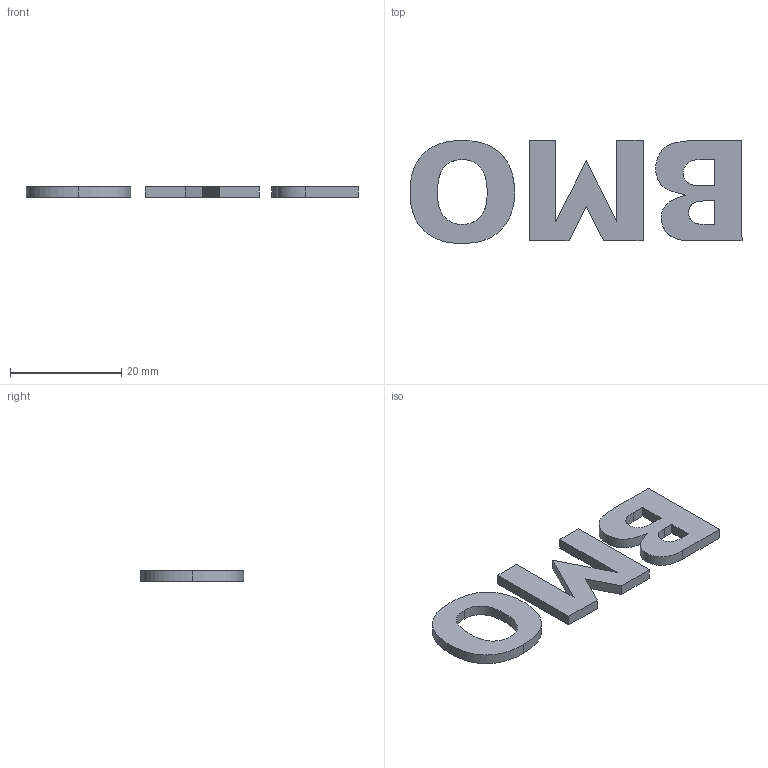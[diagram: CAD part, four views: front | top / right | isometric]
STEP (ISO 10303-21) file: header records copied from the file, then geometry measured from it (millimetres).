
FILE_DESCRIPTION (( 'STEP AP203' ), '1' );
FILE_NAME ('BMO Logo.step', '2015-03-14T23:35:42', ( '' ), ( '' ), 'SwSTEP 2.0', 'SolidWorks 2013', '' );
FILE_SCHEMA (( 'CONFIG_CONTROL_DESIGN' ));
Length unit declared in the file: inch
Products named in the file (1): BMO Logo
Bounding box: 59.6 x 18.53 x 1.91 mm (x, y, z)
Volume: 1256.3 mm3; surface area: 1933.2 mm2
Topology: 3 solids, 3 shells, 46 faces, 120 edges, 80 vertices
Faces by surface type: plane 27, bspline 19
Entity records: 3547 total; most frequent: CARTESIAN_POINT 2456, ORIENTED_EDGE 240, DIRECTION 138, EDGE_CURVE 120, LINE 82, VECTOR 82, VERTEX_POINT 80, EDGE_LOOP 52
